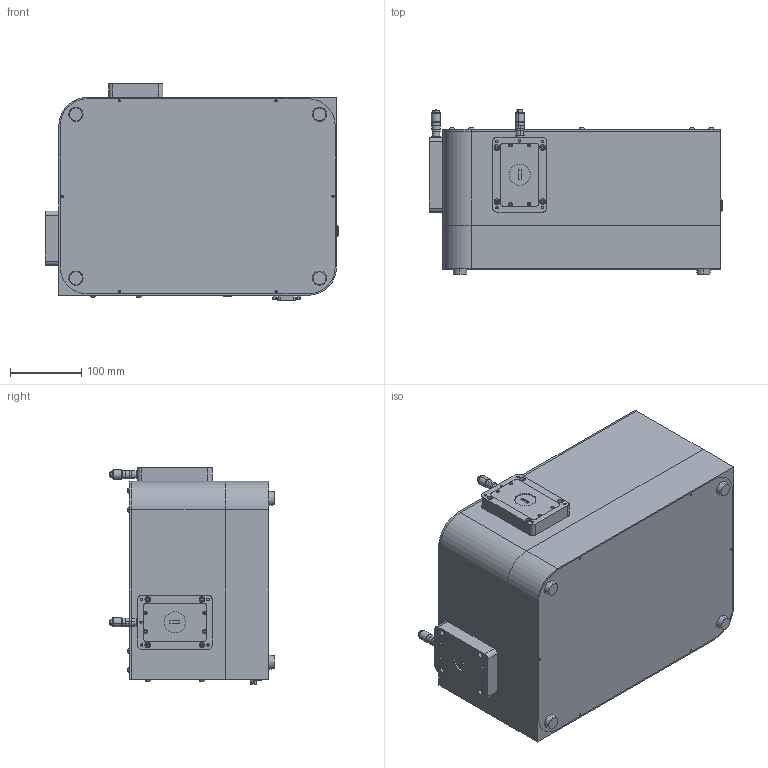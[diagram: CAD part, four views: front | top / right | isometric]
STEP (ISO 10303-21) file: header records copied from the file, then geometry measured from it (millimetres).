
FILE_DESCRIPTION (( 'STEP AP203' ), '1' );
FILE_NAME ('7IMS3011出入垂直自动单色仪.STEP', '2021-01-12T06:40:04', ( '' ), ( '' ), 'SwSTEP 2.0', 'SolidWorks 2018', '' );
FILE_SCHEMA (( 'CONFIG_CONTROL_DESIGN' ));
Length unit declared in the file: millimetre
Products named in the file (1): 7IMS3011出入垂直自动单色仪
Bounding box: 412 x 230.89 x 304 mm (x, y, z)
Surface area: 563678.2 mm2 (no closed solid volume)
Topology: 0 solids, 75 shells, 491 faces, 1683 edges, 1269 vertices
Faces by surface type: plane 227, cylinder 182, cone 54, sphere 28
Entity records: 18852 total; most frequent: CARTESIAN_POINT 3616, DIRECTION 3462, ORIENTED_EDGE 2509, EDGE_CURVE 1683, AXIS2_PLACEMENT_3D 1299, VERTEX_POINT 1269, VECTOR 864, LINE 864
